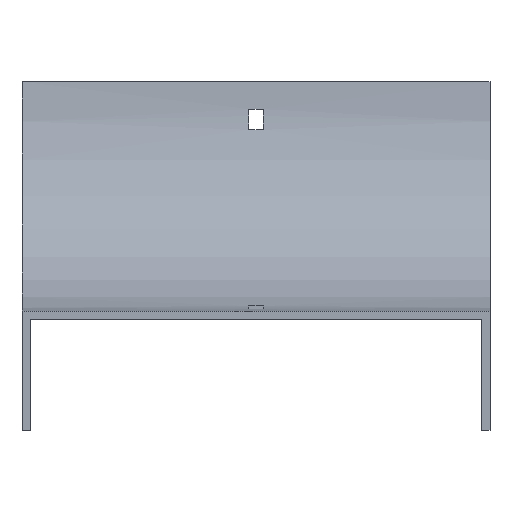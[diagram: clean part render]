
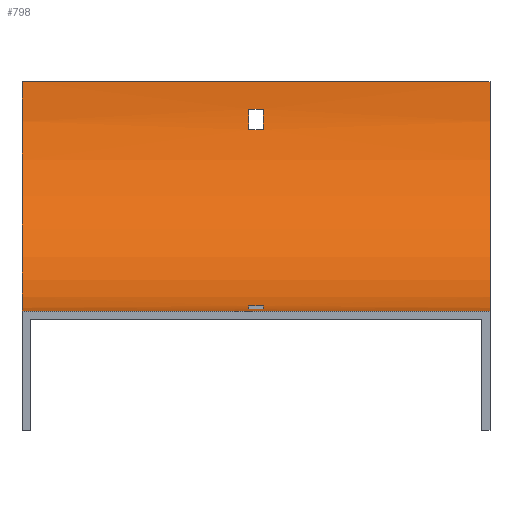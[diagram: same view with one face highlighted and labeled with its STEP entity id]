
A CAD part, front view. The second image highlights one B-rep face of the part: STEP entity #798.
In plain terms, the highlighted cylindrical face has radius 100 mm (diameter 200 mm), a partial arc.
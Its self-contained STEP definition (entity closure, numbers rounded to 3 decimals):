
#5 = AXIS2_PLACEMENT_3D ( 'NONE', #147, #481, #58 ) ;
#10 = EDGE_LOOP ( 'NONE', ( #936, #499, #57, #1097 ) ) ;
#15 = VECTOR ( 'NONE', #572, 1000. ) ;
#26 = ORIENTED_EDGE ( 'NONE', *, *, #984, .T. ) ;
#29 = CARTESIAN_POINT ( 'NONE',  ( 3.25, -0.723, -12. ) ) ;
#36 = CARTESIAN_POINT ( 'NONE',  ( -102., -100., 0. ) ) ;
#57 = ORIENTED_EDGE ( 'NONE', *, *, #167, .F. ) ;
#58 = DIRECTION ( 'NONE',  ( 0., 0., 1. ) ) ;
#73 = VECTOR ( 'NONE', #972, 1000. ) ;
#97 = DIRECTION ( 'NONE',  ( 0., 0., 1. ) ) ;
#110 = CARTESIAN_POINT ( 'NONE',  ( -3.25, -0.723, -12. ) ) ;
#116 = CARTESIAN_POINT ( 'NONE',  ( -3.25, -79., -97.77 ) ) ;
#135 = CARTESIAN_POINT ( 'NONE',  ( 102., -2.23, -21. ) ) ;
#147 = CARTESIAN_POINT ( 'NONE',  ( 102., -100., 0. ) ) ;
#150 = DIRECTION ( 'NONE',  ( -1., 0., 0. ) ) ;
#159 = CIRCLE ( 'NONE', #5, 100. ) ;
#167 = EDGE_CURVE ( 'NONE', #785, #1046, #841, .T. ) ;
#186 = CARTESIAN_POINT ( 'NONE',  ( 102., -100., 0. ) ) ;
#193 = EDGE_LOOP ( 'NONE', ( #944, #689, #980, #412 ) ) ;
#201 = AXIS2_PLACEMENT_3D ( 'NONE', #36, #150, #1008 ) ;
#207 = VERTEX_POINT ( 'NONE', #870 ) ;
#216 = DIRECTION ( 'NONE',  ( 0., 1., 0. ) ) ;
#217 = DIRECTION ( 'NONE',  ( 1., 0., 0. ) ) ;
#238 = DIRECTION ( 'NONE',  ( -1., 0., 0. ) ) ;
#249 = LINE ( 'NONE', #966, #628 ) ;
#281 = CARTESIAN_POINT ( 'NONE',  ( 3.25, -2.23, -21. ) ) ;
#298 = VERTEX_POINT ( 'NONE', #977 ) ;
#300 = CARTESIAN_POINT ( 'NONE',  ( -3.25, -2.23, -21. ) ) ;
#313 = CARTESIAN_POINT ( 'NONE',  ( 3.25, -79., -97.77 ) ) ;
#320 = DIRECTION ( 'NONE',  ( 1., 0., 0. ) ) ;
#328 = CIRCLE ( 'NONE', #1030, 100. ) ;
#345 = VERTEX_POINT ( 'NONE', #29 ) ;
#391 = LINE ( 'NONE', #396, #1054 ) ;
#392 = DIRECTION ( 'NONE',  ( 0., 0., 1. ) ) ;
#396 = CARTESIAN_POINT ( 'NONE',  ( 102., 0., 0. ) ) ;
#402 = EDGE_CURVE ( 'NONE', #207, #815, #159, .T. ) ;
#412 = ORIENTED_EDGE ( 'NONE', *, *, #424, .T. ) ;
#422 = LINE ( 'NONE', #1038, #73 ) ;
#424 = EDGE_CURVE ( 'NONE', #345, #826, #328, .T. ) ;
#429 = DIRECTION ( 'NONE',  ( 0., -1., 0. ) ) ;
#447 = CARTESIAN_POINT ( 'NONE',  ( -102., 0., 0. ) ) ;
#456 = EDGE_CURVE ( 'NONE', #591, #1117, #821, .T. ) ;
#467 = AXIS2_PLACEMENT_3D ( 'NONE', #1031, #238, #216 ) ;
#469 = CARTESIAN_POINT ( 'NONE',  ( 102., -100., -100. ) ) ;
#470 = EDGE_CURVE ( 'NONE', #1046, #591, #660, .T. ) ;
#481 = DIRECTION ( 'NONE',  ( -1., 0., 0. ) ) ;
#482 = LINE ( 'NONE', #135, #15 ) ;
#494 = CARTESIAN_POINT ( 'NONE',  ( 3.25, -100., 0. ) ) ;
#499 = ORIENTED_EDGE ( 'NONE', *, *, #470, .F. ) ;
#540 = DIRECTION ( 'NONE',  ( -1., 0., 0. ) ) ;
#563 = VERTEX_POINT ( 'NONE', #110 ) ;
#571 = DIRECTION ( 'NONE',  ( -1., 0., 0. ) ) ;
#572 = DIRECTION ( 'NONE',  ( -1., 0., 0. ) ) ;
#591 = VERTEX_POINT ( 'NONE', #116 ) ;
#628 = VECTOR ( 'NONE', #788, 1000. ) ;
#649 = DIRECTION ( 'NONE',  ( -1., 0., 0. ) ) ;
#655 = CARTESIAN_POINT ( 'NONE',  ( 102., -79., -97.77 ) ) ;
#660 = LINE ( 'NONE', #655, #1085 ) ;
#689 = ORIENTED_EDGE ( 'NONE', *, *, #724, .T. ) ;
#706 = AXIS2_PLACEMENT_3D ( 'NONE', #793, #884, #429 ) ;
#722 = EDGE_CURVE ( 'NONE', #887, #298, #853, .T. ) ;
#724 = EDGE_CURVE ( 'NONE', #1002, #563, #759, .T. ) ;
#730 = FACE_OUTER_BOUND ( 'NONE', #897, .T. ) ;
#740 = ORIENTED_EDGE ( 'NONE', *, *, #402, .F. ) ;
#759 = CIRCLE ( 'NONE', #904, 100. ) ;
#774 = ORIENTED_EDGE ( 'NONE', *, *, #1090, .F. ) ;
#785 = VERTEX_POINT ( 'NONE', #1033 ) ;
#788 = DIRECTION ( 'NONE',  ( 1., 0., 0. ) ) ;
#793 = CARTESIAN_POINT ( 'NONE',  ( 3.25, -100., 0. ) ) ;
#798 = ADVANCED_FACE ( 'NONE', ( #730, #982, #911 ), #1000, .F. ) ;
#815 = VERTEX_POINT ( 'NONE', #469 ) ;
#821 = CIRCLE ( 'NONE', #467, 100. ) ;
#826 = VERTEX_POINT ( 'NONE', #281 ) ;
#841 = CIRCLE ( 'NONE', #706, 100. ) ;
#853 = CIRCLE ( 'NONE', #201, 100. ) ;
#870 = CARTESIAN_POINT ( 'NONE',  ( 102., 0., 0. ) ) ;
#871 = AXIS2_PLACEMENT_3D ( 'NONE', #186, #540, #97 ) ;
#876 = CARTESIAN_POINT ( 'NONE',  ( -3.25, -88., -99.277 ) ) ;
#884 = DIRECTION ( 'NONE',  ( 1., 0., 0. ) ) ;
#886 = VECTOR ( 'NONE', #217, 1000. ) ;
#887 = VERTEX_POINT ( 'NONE', #447 ) ;
#897 = EDGE_LOOP ( 'NONE', ( #1137, #774, #740, #26 ) ) ;
#904 = AXIS2_PLACEMENT_3D ( 'NONE', #927, #320, #392 ) ;
#911 = FACE_BOUND ( 'NONE', #10, .T. ) ;
#918 = CARTESIAN_POINT ( 'NONE',  ( 102., -88., -99.277 ) ) ;
#927 = CARTESIAN_POINT ( 'NONE',  ( -3.25, -100., 0. ) ) ;
#935 = EDGE_CURVE ( 'NONE', #826, #1002, #482, .T. ) ;
#936 = ORIENTED_EDGE ( 'NONE', *, *, #456, .F. ) ;
#944 = ORIENTED_EDGE ( 'NONE', *, *, #935, .T. ) ;
#966 = CARTESIAN_POINT ( 'NONE',  ( 102., -0.723, -12. ) ) ;
#972 = DIRECTION ( 'NONE',  ( -1., 0., 0. ) ) ;
#977 = CARTESIAN_POINT ( 'NONE',  ( -102., -100., -100. ) ) ;
#980 = ORIENTED_EDGE ( 'NONE', *, *, #1142, .T. ) ;
#982 = FACE_BOUND ( 'NONE', #193, .T. ) ;
#984 = EDGE_CURVE ( 'NONE', #207, #887, #391, .T. ) ;
#1000 = CYLINDRICAL_SURFACE ( 'NONE', #871, 100. ) ;
#1002 = VERTEX_POINT ( 'NONE', #300 ) ;
#1008 = DIRECTION ( 'NONE',  ( 0., 0., 1. ) ) ;
#1013 = DIRECTION ( 'NONE',  ( 0., 0., -1. ) ) ;
#1030 = AXIS2_PLACEMENT_3D ( 'NONE', #494, #649, #1013 ) ;
#1031 = CARTESIAN_POINT ( 'NONE',  ( -3.25, -100., 0. ) ) ;
#1032 = LINE ( 'NONE', #918, #886 ) ;
#1033 = CARTESIAN_POINT ( 'NONE',  ( 3.25, -88., -99.277 ) ) ;
#1038 = CARTESIAN_POINT ( 'NONE',  ( 102., -100., -100. ) ) ;
#1042 = EDGE_CURVE ( 'NONE', #1117, #785, #1032, .T. ) ;
#1046 = VERTEX_POINT ( 'NONE', #313 ) ;
#1054 = VECTOR ( 'NONE', #1095, 1000. ) ;
#1085 = VECTOR ( 'NONE', #571, 1000. ) ;
#1090 = EDGE_CURVE ( 'NONE', #815, #298, #422, .T. ) ;
#1095 = DIRECTION ( 'NONE',  ( -1., 0., 0. ) ) ;
#1097 = ORIENTED_EDGE ( 'NONE', *, *, #1042, .F. ) ;
#1117 = VERTEX_POINT ( 'NONE', #876 ) ;
#1137 = ORIENTED_EDGE ( 'NONE', *, *, #722, .T. ) ;
#1142 = EDGE_CURVE ( 'NONE', #563, #345, #249, .T. ) ;
